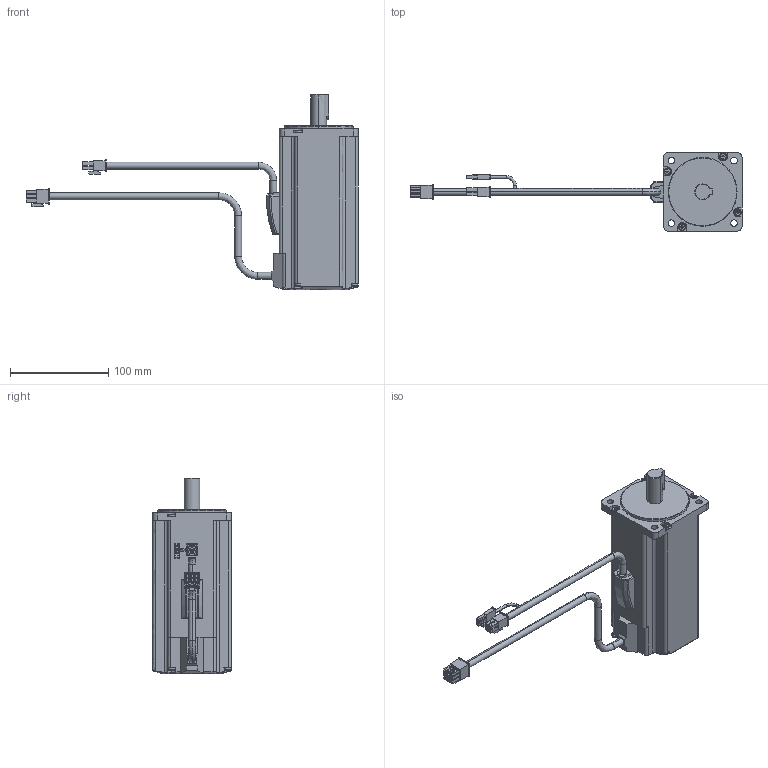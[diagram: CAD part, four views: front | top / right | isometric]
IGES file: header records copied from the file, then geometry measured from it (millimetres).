
Start section:  PTC IGES file: 10001045_rsmz-06bq-bh_brake.igs
Global section: file name: 10001045_rsmz-06bq-bh_brake.igs; native system: Pro/ENGINEER by Parametric Technology Corporation; preprocessor: 2004440; author: Administrator; organization: Unknown; date: 070829.201807; units: millimetre
Bounding box: 337.7 x 80 x 198.5 mm (x, y, z)
Volume: 943575.2 mm3; surface area: 84465.5 mm2
Topology: 1 solids, 1 shells, 501 faces, 1267 edges, 822 vertices
Faces by surface type: bspline 361, revolution 140
